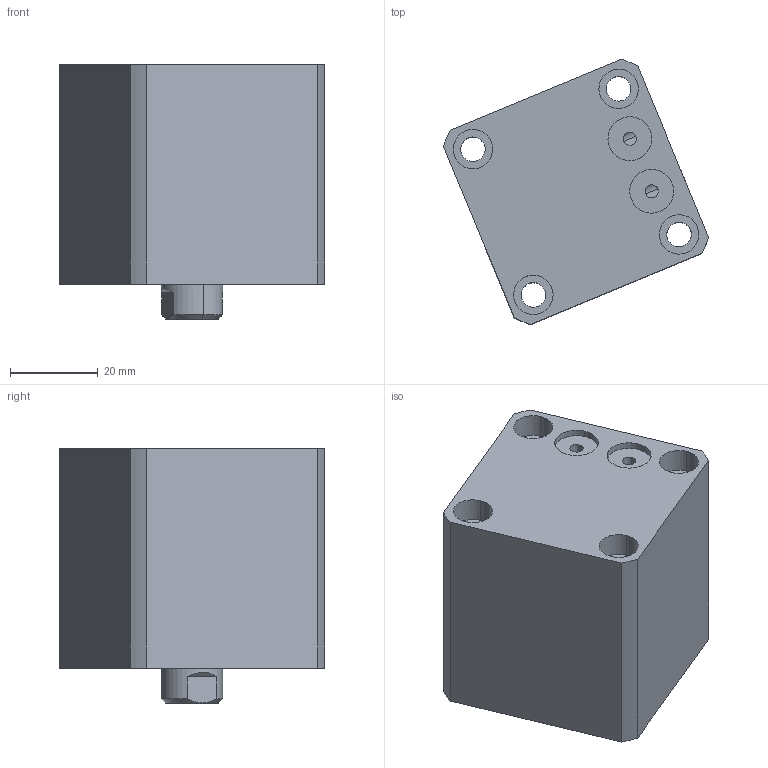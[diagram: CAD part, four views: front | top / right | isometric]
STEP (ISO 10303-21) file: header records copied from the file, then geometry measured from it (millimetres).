
FILE_DESCRIPTION (( 'STEP AP214' ), '1' );
FILE_NAME ('chtb-sdmb25x5n_asm.STEP', '2018-05-24T01:21:37', ( 'Windows' ), ( 'Microsoft' ), 'SwSTEP 2.0', 'SolidWorks 2015', '' );
FILE_SCHEMA (( 'AUTOMOTIVE_DESIGN' ));
Length unit declared in the file: millimetre
Products named in the file (4): CHTB-SDMB25X5NHSG; CHTB-SDMB25X5NBT; CHTB-25QG; chtb-sdmb25x5n_asm
Assembly tree (3 placements, depth 2):
  chtb-sdmb25x5n_asm
    CHTB-25QG
    CHTB-SDMB25X5NBT
    CHTB-SDMB25X5NHSG
Bounding box: 60.55 x 60.55 x 58 mm (x, y, z)
Volume: 104460.7 mm3; surface area: 31756.1 mm2
Topology: 3 solids, 3 shells, 170 faces, 477 edges, 327 vertices
Faces by surface type: cylinder 110, plane 35, bspline 16, cone 9
Entity records: 14260 total; most frequent: CARTESIAN_POINT 10025, ORIENTED_EDGE 942, DIRECTION 691, EDGE_CURVE 471, VERTEX_POINT 327, AXIS2_PLACEMENT_3D 276, B_SPLINE_CURVE_WITH_KNOTS 212, EDGE_LOOP 208
